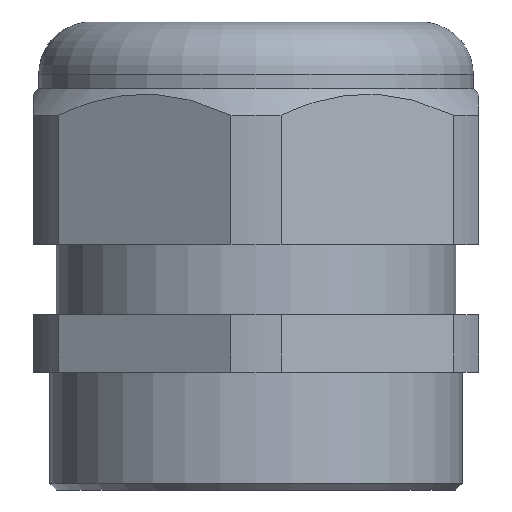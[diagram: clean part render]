
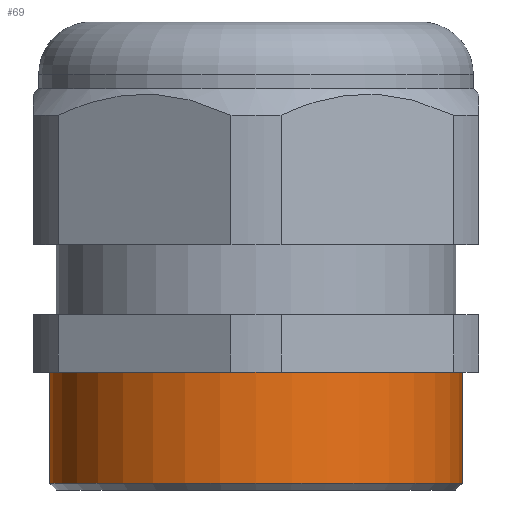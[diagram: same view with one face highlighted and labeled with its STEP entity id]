
A CAD part, front view. The second image highlights one B-rep face of the part: STEP entity #69.
In plain terms, the highlighted cylindrical face has radius 31.5 mm (diameter 63 mm), a partial arc.
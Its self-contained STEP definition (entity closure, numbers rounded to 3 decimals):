
#44 = EDGE_CURVE ( 'NONE', #492, #496, #825, .T. ) ;
#49 = ORIENTED_EDGE ( 'NONE', *, *, #495, .T. ) ;
#50 = ORIENTED_EDGE ( 'NONE', *, *, #44, .F. ) ;
#51 = ORIENTED_EDGE ( 'NONE', *, *, #500, .F. ) ;
#53 = ORIENTED_EDGE ( 'NONE', *, *, #76, .T. ) ;
#56 = EDGE_LOOP ( 'NONE', ( #51, #53, #49, #50 ) ) ;
#69 = ADVANCED_FACE ( 'NONE', ( #834 ), #833, .T. ) ;
#76 = EDGE_CURVE ( 'NONE', #498, #410, #873, .T. ) ;
#410 = VERTEX_POINT ( 'NONE', #1609 ) ;
#492 = VERTEX_POINT ( 'NONE', #1724 ) ;
#495 = EDGE_CURVE ( 'NONE', #410, #496, #1776, .T. ) ;
#496 = VERTEX_POINT ( 'NONE', #1772 ) ;
#498 = VERTEX_POINT ( 'NONE', #1771 ) ;
#500 = EDGE_CURVE ( 'NONE', #498, #492, #1770, .T. ) ;
#803 = DIRECTION ( 'NONE',  ( -1., 0., 0. ) ) ;
#816 = DIRECTION ( 'NONE',  ( -1., 0., 0. ) ) ;
#817 = DIRECTION ( 'NONE',  ( 0., 0., -1. ) ) ;
#818 = CARTESIAN_POINT ( 'NONE',  ( 0., 0., 0. ) ) ;
#819 = AXIS2_PLACEMENT_3D ( 'NONE', #818, #817, #816 ) ;
#825 = CIRCLE ( 'NONE', #826, 31.5 ) ;
#826 = AXIS2_PLACEMENT_3D ( 'NONE', #843, #842, #803 ) ;
#833 = CYLINDRICAL_SURFACE ( 'NONE', #819, 31.5 ) ;
#834 = FACE_OUTER_BOUND ( 'NONE', #56, .T. ) ;
#842 = DIRECTION ( 'NONE',  ( 0., 0., -1. ) ) ;
#843 = CARTESIAN_POINT ( 'NONE',  ( 0., 0., 1. ) ) ;
#855 = DIRECTION ( 'NONE',  ( 0., 0., -1. ) ) ;
#856 = CARTESIAN_POINT ( 'NONE',  ( 0., 0., 18. ) ) ;
#871 = DIRECTION ( 'NONE',  ( -1., 0., 0. ) ) ;
#872 = AXIS2_PLACEMENT_3D ( 'NONE', #856, #855, #871 ) ;
#873 = CIRCLE ( 'NONE', #872, 31.5 ) ;
#1609 = CARTESIAN_POINT ( 'NONE',  ( -31.5, 0., 18. ) ) ;
#1724 = CARTESIAN_POINT ( 'NONE',  ( 31.5, 0., 1. ) ) ;
#1767 = DIRECTION ( 'NONE',  ( 0., 0., -1. ) ) ;
#1768 = VECTOR ( 'NONE', #1767, 1000. ) ;
#1769 = CARTESIAN_POINT ( 'NONE',  ( 31.5, 0., 0. ) ) ;
#1770 = LINE ( 'NONE', #1769, #1768 ) ;
#1771 = CARTESIAN_POINT ( 'NONE',  ( 31.5, 0., 18. ) ) ;
#1772 = CARTESIAN_POINT ( 'NONE',  ( -31.5, 0., 1. ) ) ;
#1773 = DIRECTION ( 'NONE',  ( 0., 0., -1. ) ) ;
#1774 = VECTOR ( 'NONE', #1773, 1000. ) ;
#1775 = CARTESIAN_POINT ( 'NONE',  ( -31.5, 0., 0. ) ) ;
#1776 = LINE ( 'NONE', #1775, #1774 ) ;
